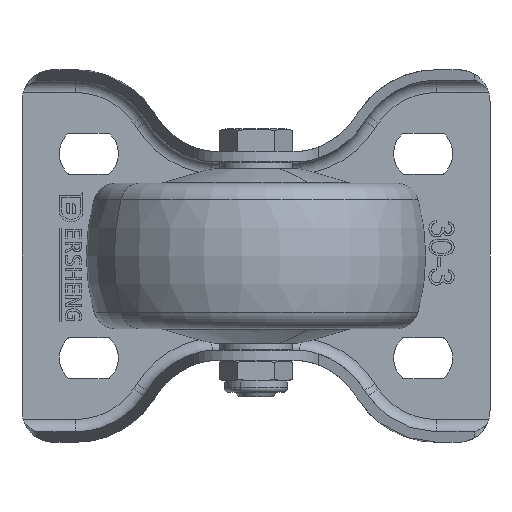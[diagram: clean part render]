
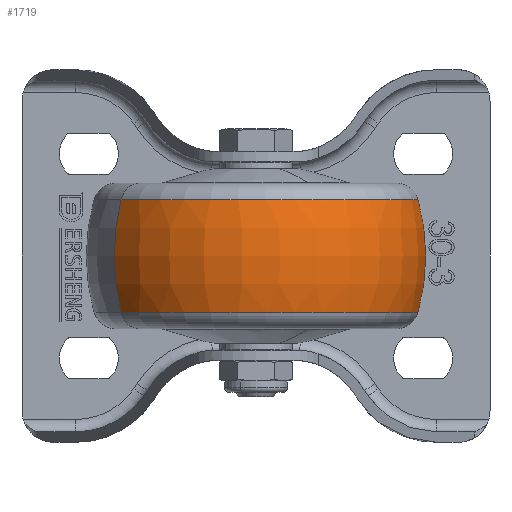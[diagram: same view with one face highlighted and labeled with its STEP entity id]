
A CAD part, front view. The second image highlights one B-rep face of the part: STEP entity #1719.
In plain terms, the highlighted toroidal (fillet/blend) face has major radius 6.667 mm and minor radius 44.167 mm.
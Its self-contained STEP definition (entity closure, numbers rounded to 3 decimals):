
#3 = ORIENTED_EDGE ( 'NONE', *, *, #10803, .T. ) ;
#35 = EDGE_CURVE ( 'NONE', #1031, #14336, #5447, .T. ) ;
#811 = EDGE_LOOP ( 'NONE', ( #13582, #3, #10879, #10591 ) ) ;
#856 = DIRECTION ( 'NONE',  ( 0., 0., 1. ) ) ;
#952 = TOROIDAL_SURFACE ( 'NONE', #4537, -6.667, 44.167 ) ;
#1031 = VERTEX_POINT ( 'NONE', #14583 ) ;
#1318 = CARTESIAN_POINT ( 'NONE',  ( -12.404, 0., 0. ) ) ;
#1538 = CARTESIAN_POINT ( 'NONE',  ( 12.404, 0., -35.722 ) ) ;
#1615 = DIRECTION ( 'NONE',  ( 0., 0., 1. ) ) ;
#1719 = ADVANCED_FACE ( 'NONE', ( #1723 ), #952, .T. ) ;
#1723 = FACE_OUTER_BOUND ( 'NONE', #811, .T. ) ;
#2575 = AXIS2_PLACEMENT_3D ( 'NONE', #4411, #4157, #3118 ) ;
#2756 = CARTESIAN_POINT ( 'NONE',  ( 0., 0., 0. ) ) ;
#3118 = DIRECTION ( 'NONE',  ( 0., 0., -1. ) ) ;
#4157 = DIRECTION ( 'NONE',  ( 0., -1., 0. ) ) ;
#4411 = CARTESIAN_POINT ( 'NONE',  ( 0., 0., -6.667 ) ) ;
#4537 = AXIS2_PLACEMENT_3D ( 'NONE', #2756, #13332, #8039 ) ;
#4777 = CIRCLE ( 'NONE', #12522, 35.722 ) ;
#5203 = DIRECTION ( 'NONE',  ( 0., 0., 1. ) ) ;
#5447 = CIRCLE ( 'NONE', #7679, 35.722 ) ;
#5999 = VERTEX_POINT ( 'NONE', #8497 ) ;
#7679 = AXIS2_PLACEMENT_3D ( 'NONE', #1318, #17088, #5203 ) ;
#8039 = DIRECTION ( 'NONE',  ( 0., 0., 1. ) ) ;
#8497 = CARTESIAN_POINT ( 'NONE',  ( 12.404, 0., 35.722 ) ) ;
#9765 = CIRCLE ( 'NONE', #2575, 44.167 ) ;
#10382 = CARTESIAN_POINT ( 'NONE',  ( -12.404, 0., 35.722 ) ) ;
#10591 = ORIENTED_EDGE ( 'NONE', *, *, #35, .F. ) ;
#10631 = DIRECTION ( 'NONE',  ( -1., 0., 0. ) ) ;
#10803 = EDGE_CURVE ( 'NONE', #10946, #5999, #4777, .T. ) ;
#10879 = ORIENTED_EDGE ( 'NONE', *, *, #11266, .T. ) ;
#10946 = VERTEX_POINT ( 'NONE', #1538 ) ;
#11266 = EDGE_CURVE ( 'NONE', #5999, #14336, #9765, .T. ) ;
#11327 = EDGE_CURVE ( 'NONE', #10946, #1031, #11977, .T. ) ;
#11426 = DIRECTION ( 'NONE',  ( 0., 1., 0. ) ) ;
#11977 = CIRCLE ( 'NONE', #16705, 44.167 ) ;
#12522 = AXIS2_PLACEMENT_3D ( 'NONE', #13405, #10631, #1615 ) ;
#13332 = DIRECTION ( 'NONE',  ( -1., 0., 0. ) ) ;
#13405 = CARTESIAN_POINT ( 'NONE',  ( 12.404, 0., 0. ) ) ;
#13582 = ORIENTED_EDGE ( 'NONE', *, *, #11327, .F. ) ;
#14336 = VERTEX_POINT ( 'NONE', #10382 ) ;
#14583 = CARTESIAN_POINT ( 'NONE',  ( -12.404, 0., -35.722 ) ) ;
#15231 = CARTESIAN_POINT ( 'NONE',  ( 0., 0., 6.667 ) ) ;
#16705 = AXIS2_PLACEMENT_3D ( 'NONE', #15231, #11426, #856 ) ;
#17088 = DIRECTION ( 'NONE',  ( -1., 0., 0. ) ) ;
